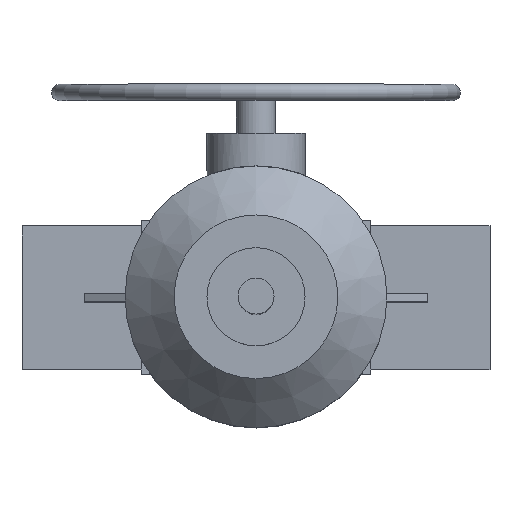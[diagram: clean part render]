
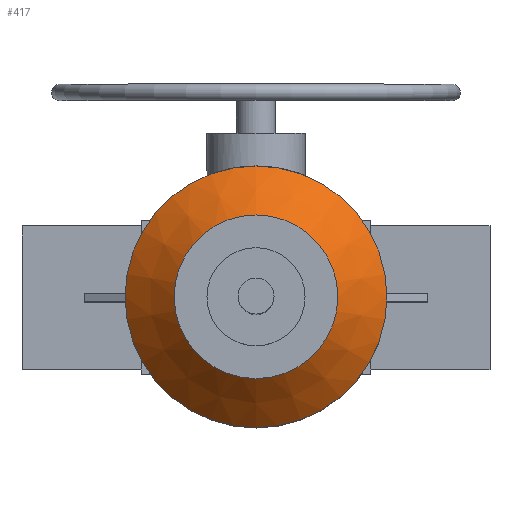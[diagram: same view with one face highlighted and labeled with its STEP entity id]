
A CAD part, top view. The second image highlights one B-rep face of the part: STEP entity #417.
In plain terms, the highlighted conical face has half-angle 45 degrees and reference radius 65 mm.
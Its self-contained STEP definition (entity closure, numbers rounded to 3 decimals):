
#417=ADVANCED_FACE('',(#1414,#1416),#1418,.T.);
#1414=FACE_OUTER_BOUND('',#1415,.T.);
#1415=EDGE_LOOP('',(#2239));
#1416=FACE_OUTER_BOUND('',#1417,.T.);
#1417=EDGE_LOOP('',(#2240));
#1418=CONICAL_SURFACE('',#1419,65.,0.785);
#1419=AXIS2_PLACEMENT_3D('',#1420,#1421,#1422);
#1420=CARTESIAN_POINT('',(0.,0.,615.));
#1421=DIRECTION('',(0.,0.,-1.));
#1422=DIRECTION('',(0.,-1.,0.));
#2239=ORIENTED_EDGE('',*,*,#2641,.T.);
#2240=ORIENTED_EDGE('',*,*,#2642,.F.);
#2641=EDGE_CURVE('',#2964,#2964,#2965,.T.);
#2642=EDGE_CURVE('',#2966,#2966,#2967,.T.);
#2964=VERTEX_POINT('',#3592);
#2965=CIRCLE('',#3593,50.);
#2966=VERTEX_POINT('',#3597);
#2967=CIRCLE('',#3598,80.);
#3592=CARTESIAN_POINT('',(0.,-50.,630.));
#3593=AXIS2_PLACEMENT_3D('',#3594,#3595,#3596);
#3594=CARTESIAN_POINT('',(0.,0.,630.));
#3595=DIRECTION('',(0.,0.,-1.));
#3596=DIRECTION('',(0.,-1.,0.));
#3597=CARTESIAN_POINT('',(0.,-80.,600.));
#3598=AXIS2_PLACEMENT_3D('',#3599,#3600,#3601);
#3599=CARTESIAN_POINT('',(0.,0.,600.));
#3600=DIRECTION('',(0.,0.,-1.));
#3601=DIRECTION('',(0.,-1.,0.));
